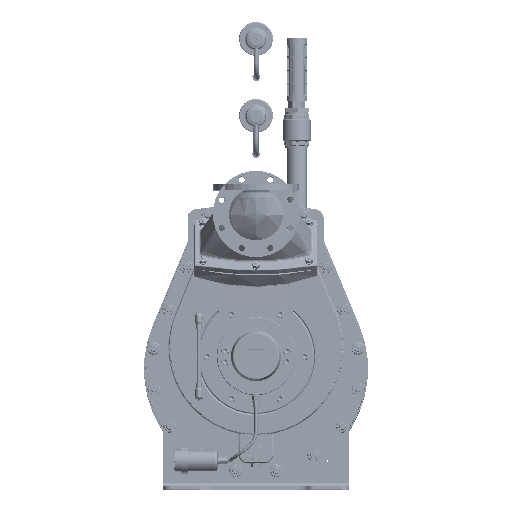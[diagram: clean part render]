
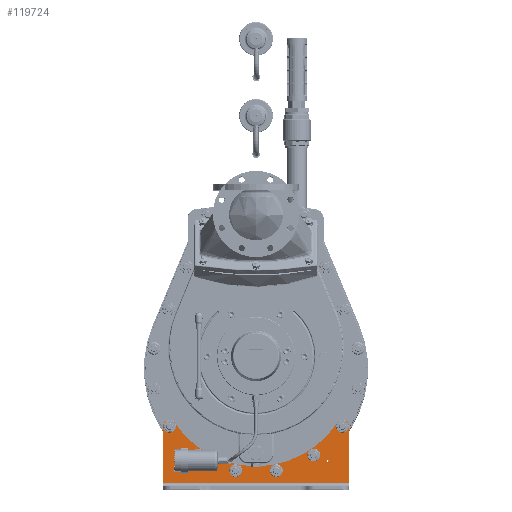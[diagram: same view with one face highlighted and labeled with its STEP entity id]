
A CAD part, top view. The second image highlights one B-rep face of the part: STEP entity #119724.
In plain terms, the highlighted planar face has unit normal (0, 0, 1) as drawn and (1, 0, 0) by its records, which use the part's own axes.
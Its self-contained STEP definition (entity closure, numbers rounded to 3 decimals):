
#13810=FACE_BOUND('',#24392,.T.);
#13811=FACE_BOUND('',#24393,.T.);
#13812=FACE_BOUND('',#24394,.T.);
#13813=FACE_BOUND('',#24395,.T.);
#13814=FACE_BOUND('',#24396,.T.);
#13815=FACE_BOUND('',#24397,.T.);
#13816=FACE_BOUND('',#24398,.T.);
#13817=FACE_BOUND('',#24399,.T.);
#14708=PLANE('',#128480);
#17291=FACE_OUTER_BOUND('',#24391,.T.);
#24391=EDGE_LOOP('',(#81610,#81611,#81612,#81613,#81614,#81615,#81616,#81617,
#81618,#81619));
#24392=EDGE_LOOP('',(#81620));
#24393=EDGE_LOOP('',(#81621));
#24394=EDGE_LOOP('',(#81622));
#24395=EDGE_LOOP('',(#81623));
#24396=EDGE_LOOP('',(#81624));
#24397=EDGE_LOOP('',(#81625));
#24398=EDGE_LOOP('',(#81626));
#24399=EDGE_LOOP('',(#81627));
#32388=LINE('',#166377,#39947);
#32390=LINE('',#166383,#39949);
#32391=LINE('',#166387,#39950);
#32392=LINE('',#166395,#39951);
#32393=LINE('',#166398,#39952);
#39947=VECTOR('',#138595,10.);
#39949=VECTOR('',#138601,10.);
#39950=VECTOR('',#138604,10.);
#39951=VECTOR('',#138611,10.);
#39952=VECTOR('',#138614,10.);
#47508=CIRCLE('',#128481,15.);
#47509=CIRCLE('',#128482,15.);
#47510=CIRCLE('',#128483,231.);
#47511=CIRCLE('',#128484,15.);
#47512=CIRCLE('',#128485,15.);
#47513=CIRCLE('',#128486,2.067);
#47514=CIRCLE('',#128487,2.067);
#47515=CIRCLE('',#128488,9.);
#47516=CIRCLE('',#128489,9.);
#47517=CIRCLE('',#128490,9.);
#47518=CIRCLE('',#128491,9.);
#47519=CIRCLE('',#128492,9.);
#47520=CIRCLE('',#128493,9.);
#51799=VERTEX_POINT('',#166374);
#51800=VERTEX_POINT('',#166376);
#51802=VERTEX_POINT('',#166382);
#51803=VERTEX_POINT('',#166384);
#51804=VERTEX_POINT('',#166386);
#51805=VERTEX_POINT('',#166388);
#51806=VERTEX_POINT('',#166390);
#51807=VERTEX_POINT('',#166392);
#51808=VERTEX_POINT('',#166394);
#51809=VERTEX_POINT('',#166396);
#51810=VERTEX_POINT('',#166399);
#51811=VERTEX_POINT('',#166401);
#51812=VERTEX_POINT('',#166403);
#51813=VERTEX_POINT('',#166405);
#51814=VERTEX_POINT('',#166407);
#51815=VERTEX_POINT('',#166409);
#51816=VERTEX_POINT('',#166411);
#51817=VERTEX_POINT('',#166413);
#63474=EDGE_CURVE('',#51799,#51800,#32388,.T.);
#63477=EDGE_CURVE('',#51802,#51799,#32390,.T.);
#63478=EDGE_CURVE('',#51803,#51802,#47508,.T.);
#63479=EDGE_CURVE('',#51804,#51803,#32391,.T.);
#63480=EDGE_CURVE('',#51805,#51804,#47509,.T.);
#63481=EDGE_CURVE('',#51805,#51806,#47510,.T.);
#63482=EDGE_CURVE('',#51807,#51806,#47511,.T.);
#63483=EDGE_CURVE('',#51808,#51807,#32392,.T.);
#63484=EDGE_CURVE('',#51809,#51808,#47512,.T.);
#63485=EDGE_CURVE('',#51800,#51809,#32393,.T.);
#63486=EDGE_CURVE('',#51810,#51810,#47513,.T.);
#63487=EDGE_CURVE('',#51811,#51811,#47514,.T.);
#63488=EDGE_CURVE('',#51812,#51812,#47515,.T.);
#63489=EDGE_CURVE('',#51813,#51813,#47516,.T.);
#63490=EDGE_CURVE('',#51814,#51814,#47517,.T.);
#63491=EDGE_CURVE('',#51815,#51815,#47518,.T.);
#63492=EDGE_CURVE('',#51816,#51816,#47519,.T.);
#63493=EDGE_CURVE('',#51817,#51817,#47520,.T.);
#81610=ORIENTED_EDGE('',*,*,#63474,.F.);
#81611=ORIENTED_EDGE('',*,*,#63477,.F.);
#81612=ORIENTED_EDGE('',*,*,#63478,.F.);
#81613=ORIENTED_EDGE('',*,*,#63479,.F.);
#81614=ORIENTED_EDGE('',*,*,#63480,.F.);
#81615=ORIENTED_EDGE('',*,*,#63481,.T.);
#81616=ORIENTED_EDGE('',*,*,#63482,.F.);
#81617=ORIENTED_EDGE('',*,*,#63483,.F.);
#81618=ORIENTED_EDGE('',*,*,#63484,.F.);
#81619=ORIENTED_EDGE('',*,*,#63485,.F.);
#81620=ORIENTED_EDGE('',*,*,#63486,.T.);
#81621=ORIENTED_EDGE('',*,*,#63487,.T.);
#81622=ORIENTED_EDGE('',*,*,#63488,.T.);
#81623=ORIENTED_EDGE('',*,*,#63489,.T.);
#81624=ORIENTED_EDGE('',*,*,#63490,.T.);
#81625=ORIENTED_EDGE('',*,*,#63491,.T.);
#81626=ORIENTED_EDGE('',*,*,#63492,.T.);
#81627=ORIENTED_EDGE('',*,*,#63493,.T.);
#119724=ADVANCED_FACE('',(#17291,#13810,#13811,#13812,#13813,#13814,#13815,
#13816,#13817),#14708,.T.);
#128480=AXIS2_PLACEMENT_3D('',#166381,#138599,#138600);
#128481=AXIS2_PLACEMENT_3D('',#166385,#138602,#138603);
#128482=AXIS2_PLACEMENT_3D('',#166389,#138605,#138606);
#128483=AXIS2_PLACEMENT_3D('',#166391,#138607,#138608);
#128484=AXIS2_PLACEMENT_3D('',#166393,#138609,#138610);
#128485=AXIS2_PLACEMENT_3D('',#166397,#138612,#138613);
#128486=AXIS2_PLACEMENT_3D('',#166400,#138615,#138616);
#128487=AXIS2_PLACEMENT_3D('',#166402,#138617,#138618);
#128488=AXIS2_PLACEMENT_3D('',#166404,#138619,#138620);
#128489=AXIS2_PLACEMENT_3D('',#166406,#138621,#138622);
#128490=AXIS2_PLACEMENT_3D('',#166408,#138623,#138624);
#128491=AXIS2_PLACEMENT_3D('',#166410,#138625,#138626);
#128492=AXIS2_PLACEMENT_3D('',#166412,#138627,#138628);
#128493=AXIS2_PLACEMENT_3D('',#166414,#138629,#138630);
#138595=DIRECTION('',(0.,0.,1.));
#138599=DIRECTION('center_axis',(1.,0.,0.));
#138600=DIRECTION('ref_axis',(0.,0.,-1.));
#138601=DIRECTION('',(0.,-1.,0.));
#138602=DIRECTION('center_axis',(-1.,0.,0.));
#138603=DIRECTION('ref_axis',(0.,0.707,-0.707));
#138604=DIRECTION('',(0.,0.,-1.));
#138605=DIRECTION('center_axis',(-1.,0.,0.));
#138606=DIRECTION('ref_axis',(0.,0.881,0.473));
#138607=DIRECTION('center_axis',(-1.,0.,0.));
#138608=DIRECTION('ref_axis',(0.,0.,-1.));
#138609=DIRECTION('center_axis',(-1.,0.,0.));
#138610=DIRECTION('ref_axis',(0.,0.881,-0.473));
#138611=DIRECTION('',(0.,0.,-1.));
#138612=DIRECTION('center_axis',(-1.,0.,0.));
#138613=DIRECTION('ref_axis',(0.,0.707,0.707));
#138614=DIRECTION('',(0.,1.,0.));
#138615=DIRECTION('center_axis',(-1.,0.,0.));
#138616=DIRECTION('ref_axis',(0.,0.,
-1.));
#138617=DIRECTION('center_axis',(-1.,0.,0.));
#138618=DIRECTION('ref_axis',(0.,0.,
-1.));
#138619=DIRECTION('center_axis',(-1.,0.,0.));
#138620=DIRECTION('ref_axis',(0.,0.,-1.));
#138621=DIRECTION('center_axis',(-1.,0.,0.));
#138622=DIRECTION('ref_axis',(0.,0.,-1.));
#138623=DIRECTION('center_axis',(-1.,0.,0.));
#138624=DIRECTION('ref_axis',(0.,0.,-1.));
#138625=DIRECTION('center_axis',(-1.,0.,0.));
#138626=DIRECTION('ref_axis',(0.,0.,-1.));
#138627=DIRECTION('center_axis',(-1.,0.,0.));
#138628=DIRECTION('ref_axis',(0.,0.,-1.));
#138629=DIRECTION('center_axis',(-1.,0.,0.));
#138630=DIRECTION('ref_axis',(0.,0.,-1.));
#166374=CARTESIAN_POINT('',(8.,16.,-220.));
#166376=CARTESIAN_POINT('',(8.,16.,220.));
#166377=CARTESIAN_POINT('',(8.,16.,0.));
#166381=CARTESIAN_POINT('Origin',(8.,58.,0.));
#166382=CARTESIAN_POINT('',(8.,150.,-220.));
#166383=CARTESIAN_POINT('',(8.,0.,-220.));
#166384=CARTESIAN_POINT('',(8.,165.,-205.));
#166385=CARTESIAN_POINT('Origin',(8.,150.,-205.));
#166386=CARTESIAN_POINT('',(8.,165.,-204.988));
#166387=CARTESIAN_POINT('',(8.,165.,-220.));
#166388=CARTESIAN_POINT('',(8.,158.293,-192.489));
#166389=CARTESIAN_POINT('Origin',(8.,150.,-204.988));
#166390=CARTESIAN_POINT('',(8.,158.293,192.489));
#166391=CARTESIAN_POINT('Origin',(8.,286.,0.));
#166392=CARTESIAN_POINT('',(8.,165.,204.988));
#166393=CARTESIAN_POINT('Origin',(8.,150.,204.988));
#166394=CARTESIAN_POINT('',(8.,165.,205.));
#166395=CARTESIAN_POINT('',(8.,165.,-220.));
#166396=CARTESIAN_POINT('',(8.,150.,220.));
#166397=CARTESIAN_POINT('Origin',(8.,150.,205.));
#166398=CARTESIAN_POINT('',(8.,165.,220.));
#166399=CARTESIAN_POINT('',(8.,68.,-167.933));
#166400=CARTESIAN_POINT('Origin',(8.,68.,-170.));
#166401=CARTESIAN_POINT('',(8.,68.,172.067));
#166402=CARTESIAN_POINT('Origin',(8.,68.,170.));
#166403=CARTESIAN_POINT('',(8.,149.33,213.542));
#166404=CARTESIAN_POINT('Origin',(8.,149.33,204.542));
#166405=CARTESIAN_POINT('',(8.,44.727,56.992));
#166406=CARTESIAN_POINT('Origin',(8.,44.727,47.992));
#166407=CARTESIAN_POINT('',(8.,81.458,-127.67));
#166408=CARTESIAN_POINT('Origin',(8.,81.458,-136.67));
#166409=CARTESIAN_POINT('',(8.,149.33,-195.542));
#166410=CARTESIAN_POINT('Origin',(8.,149.33,-204.542));
#166411=CARTESIAN_POINT('',(8.,44.727,-38.992));
#166412=CARTESIAN_POINT('Origin',(8.,44.727,-47.992));
#166413=CARTESIAN_POINT('',(8.,81.458,145.67));
#166414=CARTESIAN_POINT('Origin',(8.,81.458,136.67));
